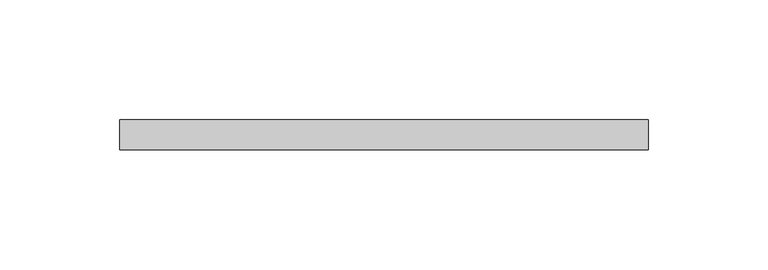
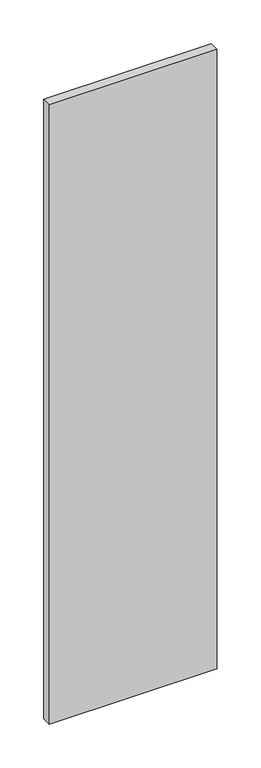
"""IFC4 building model written with IfcOpenShell, lengths in millimetres: proxy geometry, LIVERS_RZR - Glass Panel : LIVERS_RZR - Glass Panel."""

from ifc_helpers import new_model, si_unit, frame, origin, place, context, project, spatial, polyline, outline, extrude, source, transform, mapped, element, save


def building_element_proxy_41440090(model_context):
    return source(origin(), model_context, "Body", "SweptSolid", [
        extrude(outline(polyline([(717.6189834, 1.5872342), (496.55514, 1.5872342), (496.55514, 14.2874305), (717.6189834, 14.2874305), (717.6189834, 1.5872342)])), frame((0.0, 0.0, 114.3), z_axis=(0.0, 0.0, 1.0), x_axis=(1.0, 0.0, 0.0)), (0.0, 0.0, 1.0), 863.6),
    ])


if __name__ == "__main__":
    model = new_model("IFC4")
    model_context = context("Model", 3, world=origin())
    ifc_project = project(units=[si_unit("LENGTHUNIT", "METRE", prefix="MILLI")], contexts=[model_context])
    site = spatial("IfcSite", under=ifc_project)
    building = spatial("IfcBuilding", under=site)
    placement = place(None, origin())
    building_element_proxy_shape = building_element_proxy_41440090(model_context)
    element("IfcBuildingElementProxy", 1, Name="LIVERS_RZR - Glass Panel : LIVERS_RZR - Glass Panel", ObjectType="LIVERS_RZR - Glass Panel : LIVERS_RZR - Glass Panel", at=placement, inside=building, context=model_context, shape_type="MappedRepresentation", body=[
        mapped(building_element_proxy_shape, transform((0.0, 0.0, 0.0), x_axis=(1.0, 0.0, 0.0), y_axis=(0.0, 1.0, 0.0), z_axis=(0.0, 0.0, 1.0))),
    ])
    save(model, "model.ifc")
